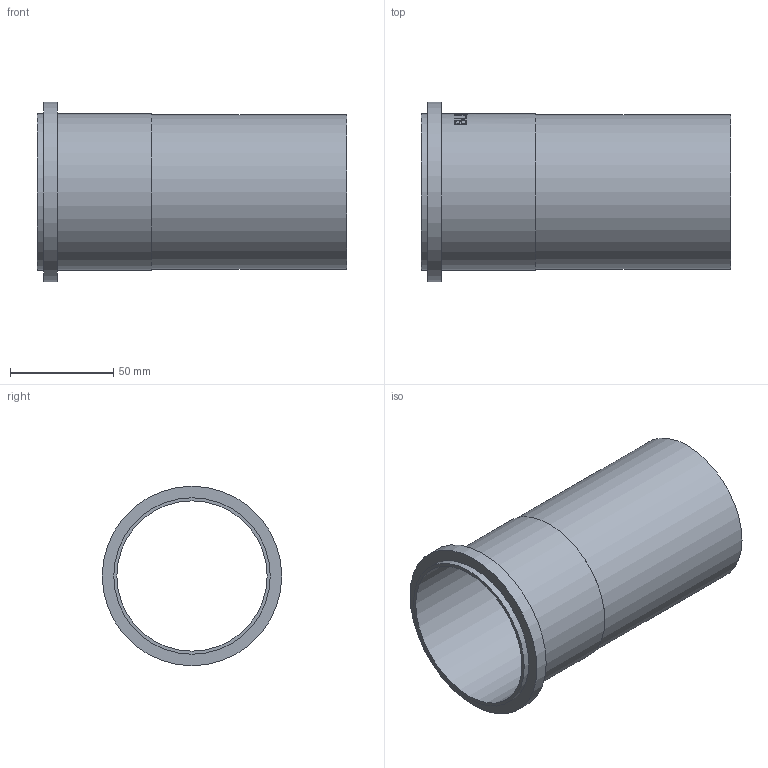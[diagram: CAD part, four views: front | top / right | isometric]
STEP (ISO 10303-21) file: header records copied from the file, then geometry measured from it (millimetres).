
FILE_DESCRIPTION((''),'2;1');
FILE_NAME('I:\WATTS\3D_CAD\3D_CAD_Models\Blucher_Drains\P_StraightPipe\WebsiteFiles\3D\STEP\P3-0.5-316.stp','2009-12-02T13:32:11',('menesek'),(''),'Autodesk Inventor 2010','Autodesk Inventor 2010','');
FILE_SCHEMA(('AUTOMOTIVE_DESIGN { 1 0 10303 214 1 1 1 1 }'));
Length unit declared in the file: inch
Products named in the file (1): P3-0.5-316
Bounding box: 150 x 87.12 x 87.12 mm (x, y, z)
Volume: 51122.8 mm3; surface area: 73693.3 mm2
Topology: 1 solids, 1 shells, 109 faces, 285 edges, 190 vertices
Faces by surface type: plane 59, bspline 34, cylinder 16
Full cylindrical faces by diameter (mm): 72.898 x1, 74.93 x1, 75.946 x2, 87.122 x1
Entity records: 13765 total; most frequent: CARTESIAN_POINT 11387, ORIENTED_EDGE 548, DIRECTION 356, EDGE_CURVE 274, VERTEX_POINT 186, EDGE_LOOP 128, AXIS2_PLACEMENT_3D 120, VECTOR 116
